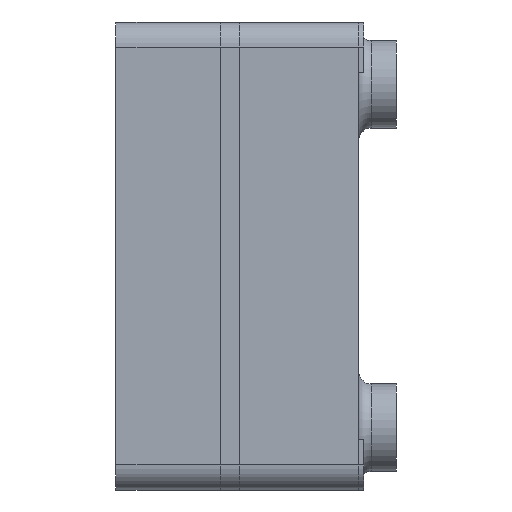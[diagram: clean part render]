
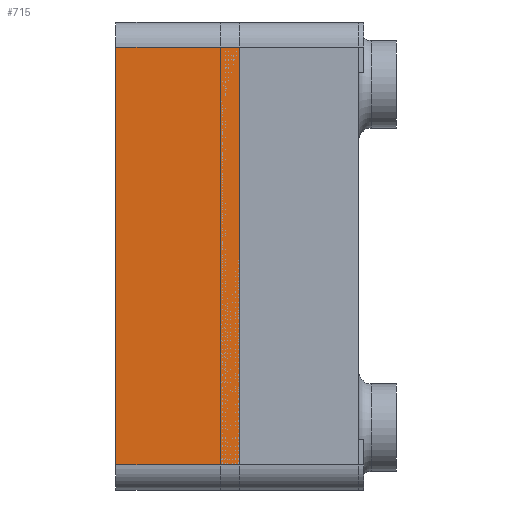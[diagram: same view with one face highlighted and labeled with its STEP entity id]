
A CAD part, left-side view. The second image highlights one B-rep face of the part: STEP entity #715.
In plain terms, the highlighted planar face has unit normal (-1, 0, 0).
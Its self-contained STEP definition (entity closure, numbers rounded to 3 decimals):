
#715=ADVANCED_FACE('NONE',(#1118),#994,.F.);
#994=PLANE('',#5768);
#1118=FACE_OUTER_BOUND('',#1397,.T.);
#1397=EDGE_LOOP('',(#1923,#1924,#1925,#1926));
#1923=ORIENTED_EDGE('',*,*,#4088,.F.);
#1924=ORIENTED_EDGE('',*,*,#4089,.T.);
#1925=ORIENTED_EDGE('',*,*,#4050,.F.);
#1926=ORIENTED_EDGE('',*,*,#4090,.T.);
#3490=VERTEX_POINT('',#8296);
#3491=VERTEX_POINT('',#8298);
#3515=VERTEX_POINT('',#8375);
#3516=VERTEX_POINT('',#8376);
#4050=EDGE_CURVE('NONE',#3490,#3491,#4803,.T.);
#4088=EDGE_CURVE('NONE',#3515,#3516,#4826,.T.);
#4089=EDGE_CURVE('NONE',#3515,#3491,#4827,.T.);
#4090=EDGE_CURVE('NONE',#3490,#3516,#4828,.T.);
#4803=LINE('',#8297,#5271);
#4826=LINE('',#8374,#5294);
#4827=LINE('',#8377,#5295);
#4828=LINE('',#8378,#5296);
#5271=VECTOR('',#6527,1.);
#5294=VECTOR('',#6586,1.);
#5295=VECTOR('',#6587,1.);
#5296=VECTOR('',#6588,1.);
#5768=AXIS2_PLACEMENT_3D('',#8379,#6589,#6590);
#6527=DIRECTION('',(0.,0.,-1.));
#6586=DIRECTION('',(0.,0.,1.));
#6587=DIRECTION('',(0.,-1.,0.));
#6588=DIRECTION('',(0.,1.,0.));
#6589=DIRECTION('',(1.,0.,0.));
#6590=DIRECTION('',(0.,0.,-1.));
#8296=CARTESIAN_POINT('',(-32.5,4.95,8.35));
#8297=CARTESIAN_POINT('',(-32.5,4.95,-9.35));
#8298=CARTESIAN_POINT('',(-32.5,4.95,-8.35));
#8374=CARTESIAN_POINT('',(-32.5,9.9,9.35));
#8375=CARTESIAN_POINT('',(-32.5,9.9,-8.35));
#8376=CARTESIAN_POINT('',(-32.5,9.9,8.35));
#8377=CARTESIAN_POINT('',(-32.5,9.9,-8.35));
#8378=CARTESIAN_POINT('',(-32.5,9.9,8.35));
#8379=CARTESIAN_POINT('',(-32.5,9.9,9.35));
